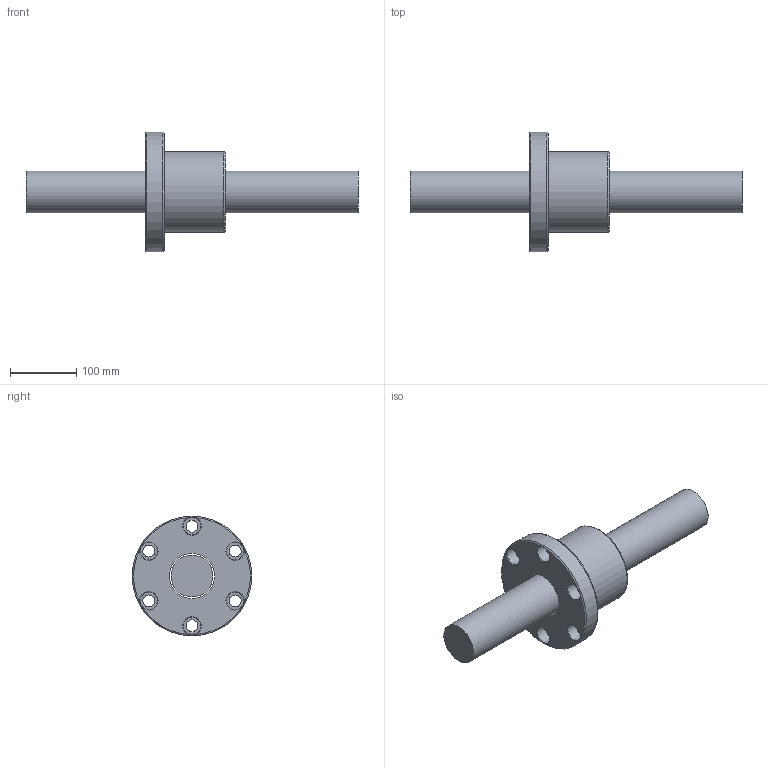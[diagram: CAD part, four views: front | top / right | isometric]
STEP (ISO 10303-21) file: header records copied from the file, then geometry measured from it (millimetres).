
FILE_DESCRIPTION (( 'STEP AP203' ), '1' );
FILE_NAME ('SFV06320N-2.7.step', '2024-05-20T03:40:27', ( '' ), ( '' ), 'SwSTEP 2.0', 'SolidWorks 2022', '' );
FILE_SCHEMA (( 'CONFIG_CONTROL_DESIGN' ));
Length unit declared in the file: millimetre
Products named in the file (1): SFV06320N-2.7
Bounding box: 500 x 180 x 180 mm (x, y, z)
Volume: 2834906.3 mm3; surface area: 233859.7 mm2
Topology: 2 solids, 2 shells, 57 faces, 145 edges, 93 vertices
Faces by surface type: cylinder 24, cone 13, plane 12, bspline 5, torus 3
Full cylindrical faces by diameter (mm): 4 x1, 7 x6, 18 x6, 26 x6, 63 x1, 68.2 x1, 122 x1, 180 x1
Entity records: 3457 total; most frequent: CARTESIAN_POINT 2405, DIRECTION 204, ORIENTED_EDGE 150, EDGE_LOOP 102, AXIS2_PLACEMENT_3D 101, EDGE_CURVE 75, FACE_OUTER_BOUND 72, VERTEX_POINT 65
